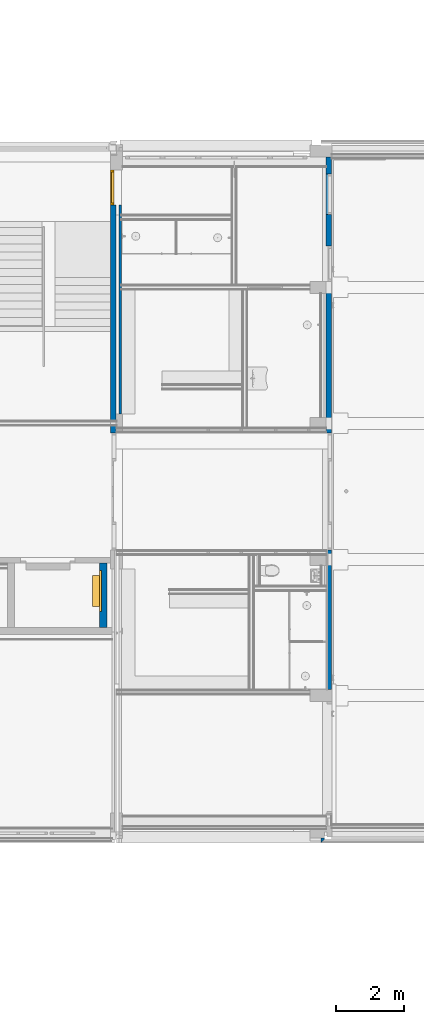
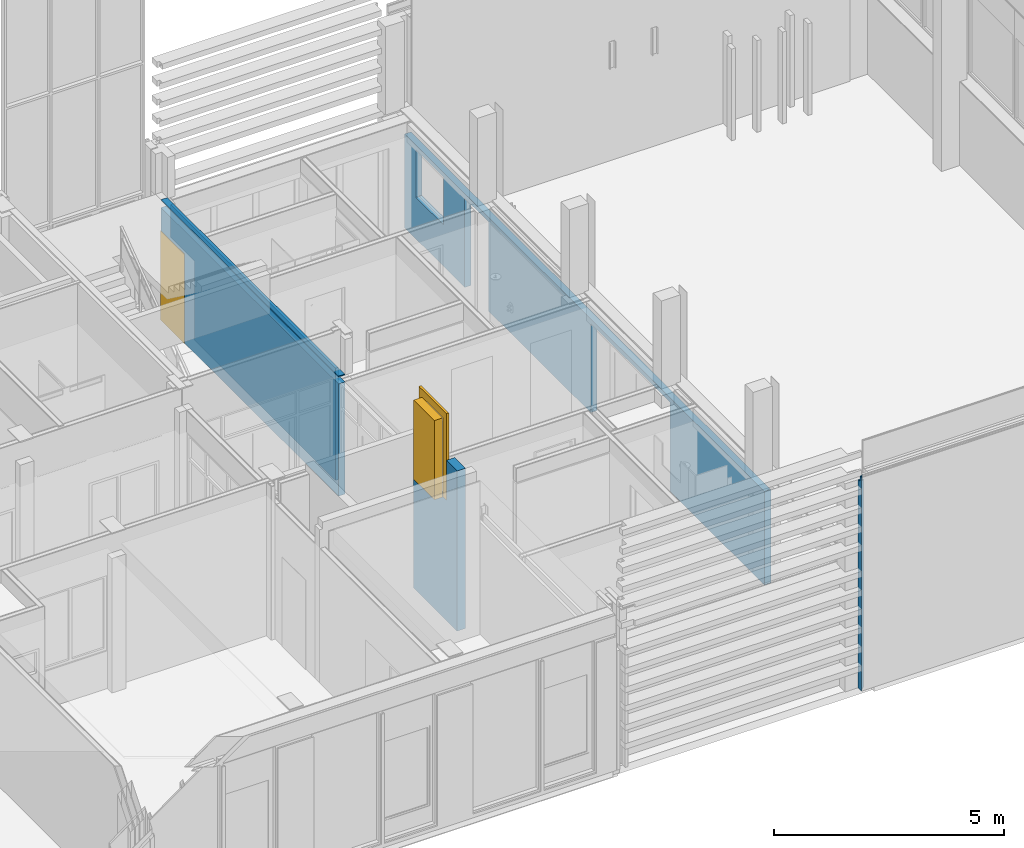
# One storey, part 20 of 109: 5 walls, 3 doors, 8 openings.
"""IFC2X3 building model written with IfcOpenShell, lengths in millimetres."""

from ifc_helpers import new_model, entity, si_unit, converted_unit, derived_unit, money_unit, direction, frame, origin_with_axes, place, context, subcontext, project, spatial, faceted_brep, material, type_object, element, fill, save


model = new_model("IFC2X3")

# Units and contexts
model_context = context("Model", 3, precision=0.01, world=origin_with_axes(), true_north=direction((0.0, 1.0)))
body_context = subcontext(model_context, "Body", "Model", "MODEL_VIEW")
ifc_project = project(units=[si_unit("LENGTHUNIT", "METRE", prefix="MILLI"), si_unit("AREAUNIT", "SQUARE_METRE"), si_unit("VOLUMEUNIT", "CUBIC_METRE"), converted_unit("PLANEANGLEUNIT", "DEGREE", entity("IfcPlaneAngleMeasure", 0.0174532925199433), si_unit("PLANEANGLEUNIT", "RADIAN"), dimensions=[0, 0, 0, 0, 0, 0, 0]), money_unit("EUR"), converted_unit("TIMEUNIT", "Year", entity("IfcTimeMeasure", 31557600.0), si_unit("TIMEUNIT", "SECOND"), dimensions=[0, 0, 1, 0, 0, 0, 0]), si_unit("MASSUNIT", "GRAM", prefix="KILO"), si_unit("THERMODYNAMICTEMPERATUREUNIT", "DEGREE_CELSIUS"), si_unit("LUMINOUSINTENSITYUNIT", "LUMEN"), si_unit("ENERGYUNIT", "JOULE", prefix="MEGA"), derived_unit("THERMALCONDUCTANCEUNIT", [(si_unit("POWERUNIT", "WATT"), 1), (si_unit("LENGTHUNIT", "METRE"), -1), (si_unit("THERMODYNAMICTEMPERATUREUNIT", "KELVIN"), -1)]), derived_unit("SPECIFICHEATCAPACITYUNIT", [(si_unit("ENERGYUNIT", "JOULE"), 1), (si_unit("MASSUNIT", "GRAM", prefix="KILO"), -1), (si_unit("THERMODYNAMICTEMPERATUREUNIT", "KELVIN"), -1)]), derived_unit("MASSDENSITYUNIT", [(si_unit("MASSUNIT", "GRAM", prefix="KILO"), 1), (si_unit("VOLUMEUNIT", "CUBIC_METRE"), -1)])], contexts=[model_context])

# Site, building, storey
site_placement = place(None, origin_with_axes())
site = spatial("IfcSite", under=ifc_project, at=site_placement, Name="<site naam>", CompositionType="ELEMENT")
building_placement = place(site_placement, origin_with_axes())
building = spatial("IfcBuilding", under=site, at=building_placement, Name="<Naam gebouw>", CompositionType="ELEMENT")
storey_placement = place(building_placement, origin_with_axes())
storey = spatial("IfcBuildingStorey", under=building, at=storey_placement, Name="00 Begane grond", CompositionType="ELEMENT", Elevation=0.0)

# Wall, opening, door
ifc_material_1 = material(Name="beton")
wall_type_1 = type_object("IfcWallType", Name="beton 160", PredefinedType="NOTDEFINED")
wall_1_placement = place(storey_placement, frame((51825.00000000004, 19449.99999999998, 0.0), z_axis=(0.0, 0.0, 1.0), x_axis=(0.0, -1.0, 0.0)))
wall_1 = element("IfcWall", 1, at=wall_1_placement, inside=storey, type_object=wall_type_1, material=ifc_material_1, Name="22_Binnenwand_beton", context=body_context, shape_type="Brep", body=[
    faceted_brep([(7719.601271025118, 0.0, 3188.0), (7719.601271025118, 38.87051533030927, 3188.0), (7724.999999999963, 38.87051533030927, 3188.0), (7724.999999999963, 159.9999999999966, 3188.0), (0.0, 160.0000000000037, 3188.0), (0.0, 0.0, 3188.0), (7719.601271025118, 38.87051533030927, 3158.0), (7719.601271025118, 0.0, 3158.0), (7724.999999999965, 38.87051533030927, 3158.0), (7724.999999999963, 159.9999999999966, 3158.0), (0.0, 160.0000000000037, 3158.0), (0.0, 0.0, 3158.0)], [[[0, 1, 2, 3, 4, 5]], [[6, 1, 0, 7]], [[8, 2, 1, 6]], [[3, 2, 8, 9]], [[4, 3, 9, 10]], [[5, 4, 10, 11]], [[11, 7, 0, 5]], [[8, 6, 7, 11, 10, 9]]]),
    faceted_brep([(0.0, 0.0, 0.0), (0.0, 0.0, 2978.0), (0.0, 160.0000000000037, 2978.0), (0.0, 159.9999999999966, 0.0), (7724.999999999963, 0.0, 0.0), (7724.999999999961, 0.0, 2978.0), (7724.999999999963, 159.9999999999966, 2978.0), (7724.999999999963, 159.9999999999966, 0.0)], [[[0, 1, 2, 3]], [[4, 5, 1, 0]], [[5, 6, 2, 1]], [[3, 2, 6, 7]], [[0, 3, 7, 4]], [[7, 6, 5, 4]]]),
])
opening_1_placement = place(wall_1_placement, frame((516.9999866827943, 0.0, 0.0), z_axis=(0.0, 0.0, 1.0), x_axis=(1.0, 0.0, 0.0)))
opening_1 = element("IfcOpeningElement", 2, at=opening_1_placement, cuts=wall_1, Name="22_BI-A-06_305", context=body_context, shape_type="Brep", body=[
    faceted_brep([(516.9999999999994, 160.9999999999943, 2367.0), (516.9999999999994, 160.9999999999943, 0.0), (-516.9999999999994, 160.9999999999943, 0.0), (-516.9999999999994, 160.9999999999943, 2367.0), (516.9999999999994, -0.9999999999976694, 2367.0), (516.9999999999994, -0.9999999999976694, 0.0), (-516.9999999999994, -0.9999999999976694, 0.0), (-516.9999999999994, -0.9999999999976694, 2367.0)], [[[0, 1, 2, 3]], [[4, 5, 1, 0]], [[5, 6, 2, 1]], [[6, 7, 3, 2]], [[7, 4, 0, 3]], [[6, 5, 4, 7]]]),
])
door_style_1 = type_object("IfcDoorStyle", Name="D1 27", ConstructionType="NOTDEFINED", OperationType="SINGLE_SWING_LEFT", ParameterTakesPrecedence=False, Sizeable=False)
door_1_placement = place(opening_1_placement, frame((449.9999999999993, 0.0, 0.0), z_axis=(0.0, 0.0, 1.0), x_axis=(-1.0, 0.0, 0.0)))
door_1 = element("IfcDoor", 3, at=door_1_placement, inside=storey, type_object=door_style_1, Name="22_BI-A-06_305", ObjectType="DOOR", OverallHeight=2367.0, OverallWidth=1034.0, context=body_context, shape_type="Brep", body=[
    faceted_brep([(-16.99999999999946, -30.00000000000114, 0.0), (0.0, -30.00000000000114, 0.0), (0.0, -30.00000000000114, 12.0), (-16.99999999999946, -30.00000000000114, 12.0), (916.9999999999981, -30.00000000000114, 0.0), (899.9999999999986, -30.00000000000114, 0.0), (899.9999999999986, -103.9999999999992, 0.0), (0.0, -103.9999999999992, 0.0), (0.0, -103.9999999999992, 11.99999999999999), (899.9999999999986, -103.9999999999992, 11.99999999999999), (899.9999999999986, -30.00000000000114, 12.0), (916.9999999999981, -30.00000000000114, 12.0)], [[[0, 1, 2, 3]], [[0, 4, 5, 6, 7, 1]], [[1, 7, 8, 2]], [[3, 2, 8, 9, 10, 11]], [[4, 0, 3, 11]], [[5, 4, 11, 10]], [[6, 5, 10, 9]], [[7, 6, 9, 8]]]),
    faceted_brep([(899.9999999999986, -30.00000000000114, 0.0), (899.9999999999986, -103.9999999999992, 0.0), (899.9999999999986, -103.9999999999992, 2300.0), (899.9999999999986, -30.00000000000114, 2300.0), (916.9999999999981, -30.00000000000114, 0.0), (916.9999999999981, 9.99999999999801, 0.0), (966.9999999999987, 9.99999999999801, 0.0), (966.9999999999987, -103.9999999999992, 0.0), (966.9999999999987, -103.9999999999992, 2300.0), (916.9999999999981, -30.00000000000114, 2300.0), (966.9999999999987, 9.99999999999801, 2300.0), (916.9999999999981, 9.99999999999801, 2300.0)], [[[0, 1, 2, 3]], [[4, 5, 6, 7, 1, 0]], [[1, 7, 8, 2]], [[9, 3, 2, 8, 10, 11]], [[9, 4, 0, 3]], [[11, 5, 4, 9]], [[11, 10, 6, 5]], [[6, 10, 8, 7]]]),
    faceted_brep([(-16.99999999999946, -30.00000000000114, 2300.0), (-16.99999999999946, 9.99999999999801, 2300.0), (-67.00000000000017, 9.99999999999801, 2300.0), (-67.00000000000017, -103.9999999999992, 2300.0), (0.0, -103.9999999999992, 2300.0), (0.0, -30.00000000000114, 2300.0), (-16.99999999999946, -30.00000000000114, 0.0), (-16.99999999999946, 9.99999999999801, 0.0), (-67.00000000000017, 9.99999999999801, 0.0), (-67.00000000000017, -103.9999999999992, 0.0), (0.0, -103.9999999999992, 0.0), (0.0, -30.00000000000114, 0.0)], [[[0, 1, 2, 3, 4, 5]], [[0, 6, 7, 1]], [[7, 8, 2, 1]], [[2, 8, 9, 3]], [[3, 9, 10, 4]], [[5, 4, 10, 11]], [[5, 11, 6, 0]], [[6, 11, 10, 9, 8, 7]]]),
    faceted_brep([(916.9999999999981, 9.99999999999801, 2317.0), (-16.99999999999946, 9.99999999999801, 2317.0), (-16.99999999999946, 9.99999999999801, 2300.0), (-67.00000000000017, 9.99999999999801, 2300.0), (-67.00000000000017, 9.99999999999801, 2367.0), (966.9999999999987, 9.99999999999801, 2367.0), (966.9999999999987, 9.99999999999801, 2300.0), (916.9999999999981, 9.99999999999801, 2300.0), (916.9999999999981, -30.00000000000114, 2317.0), (-16.99999999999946, -30.00000000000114, 2317.0), (-16.99999999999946, -30.00000000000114, 2300.0), (0.0, -30.00000000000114, 2300.0), (0.0, -103.9999999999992, 2300.0), (-67.00000000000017, -103.9999999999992, 2300.0), (-67.00000000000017, -103.9999999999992, 2367.0), (966.9999999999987, -103.9999999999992, 2367.0), (966.9999999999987, -103.9999999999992, 2300.0), (916.9999999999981, -30.00000000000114, 2300.0), (899.9999999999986, -103.9999999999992, 2300.0), (899.9999999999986, -30.00000000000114, 2300.0)], [[[0, 1, 2, 3, 4, 5, 6, 7]], [[0, 8, 9, 1]], [[1, 9, 10, 2]], [[10, 11, 12, 13, 3, 2]], [[4, 3, 13, 14]], [[5, 4, 14, 15]], [[6, 5, 15, 16]], [[17, 7, 6, 16, 18, 19]], [[7, 17, 8, 0]], [[10, 9, 8, 17, 19, 11]], [[19, 18, 12, 11]], [[12, 18, 16, 15, 14, 13]]]),
    faceted_brep([(-16.99999999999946, 9.99999999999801, 0.0), (916.9999999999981, 9.99999999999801, 0.0), (916.9999999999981, -30.00000000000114, 0.0), (-16.99999999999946, -30.00000000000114, 0.0), (-16.99999999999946, 9.99999999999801, 2317.0), (916.9999999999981, 9.99999999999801, 2317.0), (916.9999999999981, -30.00000000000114, 2317.0), (-16.99999999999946, -30.00000000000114, 2317.0)], [[[0, 1, 2, 3]], [[0, 4, 5, 1]], [[1, 5, 6, 2]], [[3, 2, 6, 7]], [[4, 0, 3, 7]], [[5, 4, 7, 6]]]),
])
fill(opening_1, door_1)

# Wall, openings
wall_2_placement = place(storey_placement, frame((58317.78284470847, 19824.99999999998, 0.0), z_axis=(0.0, 0.0, 1.0), x_axis=(0.0, -1.0, 0.0)))
wall_2 = element("IfcWall", 4, at=wall_2_placement, inside=storey, type_object=wall_type_1, material=ifc_material_1, Name="22_Binnenwand_beton", context=body_context, shape_type="Brep", body=[
    faceted_brep([(0.0, 0.0, 0.0), (0.0, -159.9999999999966, 0.0), (0.0, -159.9999999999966, 2487.5), (0.0, 0.0, 2487.5), (15649.99999999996, -160.0000000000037, 0.0), (15649.99999999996, 0.0, 0.0), (15649.99999999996, -160.0000000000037, 2487.5), (15649.99999999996, 0.0, 2487.5)], [[[0, 1, 2, 3]], [[4, 1, 0, 5]], [[1, 4, 6, 2]], [[2, 6, 7, 3]], [[5, 0, 3, 7]], [[4, 5, 7, 6]]]),
])
opening_2_placement = place(wall_2_placement, frame((9824.999999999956, 0.0, 3187.5), z_axis=(0.0, 0.0, 1.0), x_axis=(1.0, 0.0, 0.0)))
element("IfcOpeningElement", 5, at=opening_2_placement, cuts=wall_2, Name="22_54-x_305", context=body_context, shape_type="Brep", body=[
    faceted_brep([(-1725.0, -160.9999999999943, 1062.5), (-1725.0, -160.9999999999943, 0.0), (1725.0, -160.9999999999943, 0.0), (1725.0, -160.9999999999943, 1062.5), (-1725.0, 0.9999999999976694, 1062.5), (-1725.0, 0.9999999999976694, 0.0), (1725.0, 0.9999999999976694, 0.0), (1725.0, 0.9999999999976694, 1062.5)], [[[0, 1, 2, 3]], [[4, 5, 1, 0]], [[5, 6, 2, 1]], [[6, 7, 3, 2]], [[7, 4, 0, 3]], [[6, 5, 4, 7]]]),
])
opening_3_placement = place(wall_2_placement, frame((1089.246352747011, 0.0, 1100.0), z_axis=(0.0, 0.0, 1.0), x_axis=(1.0, 0.0, 0.0)))
element("IfcOpeningElement", 6, at=opening_3_placement, cuts=wall_2, Name="22_BI-E-21_305", context=body_context, shape_type="Brep", body=[
    faceted_brep([(-600.0000000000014, -160.9999999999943, 1267.0), (-600.0000000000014, -160.9999999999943, 0.0), (600.0000000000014, -160.9999999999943, 0.0), (600.0000000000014, -160.9999999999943, 1267.0), (-600.0000000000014, 0.9999999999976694, 1267.0), (-600.0000000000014, 0.9999999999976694, 0.0), (600.0000000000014, 0.9999999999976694, 0.0), (600.0000000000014, 0.9999999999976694, 1267.0)], [[[0, 1, 2, 3]], [[4, 5, 1, 0]], [[5, 6, 2, 1]], [[6, 7, 3, 2]], [[7, 4, 0, 3]], [[6, 5, 4, 7]]]),
])
opening_4_placement = place(wall_2_placement, frame((9824.999999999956, 0.0, 0.0), z_axis=(0.0, 0.0, 1.0), x_axis=(1.0, 0.0, 0.0)))
element("IfcOpeningElement", 7, at=opening_4_placement, cuts=wall_2, Name="22_BI-D-05_305", context=body_context, shape_type="Brep", body=[
    faceted_brep([(-1724.999999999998, -160.9999999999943, 2367.0), (-1724.999999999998, -160.9999999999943, 0.0), (1724.999999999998, -160.9999999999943, 0.0), (1724.999999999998, -160.9999999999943, 2367.0), (-1724.999999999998, 0.9999999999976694, 2367.0), (-1724.999999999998, 0.9999999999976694, 0.0), (1724.999999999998, 0.9999999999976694, 0.0), (1724.999999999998, 0.9999999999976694, 2367.0)], [[[0, 1, 2, 3]], [[4, 5, 1, 0]], [[5, 6, 2, 1]], [[6, 7, 3, 2]], [[7, 4, 0, 3]], [[6, 5, 4, 7]]]),
])
opening_5_placement = place(wall_2_placement, frame((3132.999999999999, 0.0, 0.0), z_axis=(0.0, 0.0, 1.0), x_axis=(1.0, 0.0, 0.0)))
element("IfcOpeningElement", 8, at=opening_5_placement, cuts=wall_2, Name="22_BI-A-05_305", context=body_context, shape_type="Brep", body=[
    faceted_brep([(-516.9999999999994, -160.9999999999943, 2367.0), (-516.9999999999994, -160.9999999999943, 0.0), (516.9999999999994, -160.9999999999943, 0.0), (516.9999999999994, -160.9999999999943, 2367.0), (-516.9999999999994, 0.9999999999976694, 2367.0), (-516.9999999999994, 0.9999999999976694, 0.0), (516.9999999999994, 0.9999999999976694, 0.0), (516.9999999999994, 0.9999999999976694, 2367.0)], [[[0, 1, 2, 3]], [[4, 5, 1, 0]], [[5, 6, 2, 1]], [[6, 7, 3, 2]], [[7, 4, 0, 3]], [[6, 5, 4, 7]]]),
])

# Wall
ifc_material_2 = material(Name="metselwerk AFW")
wall_type_2 = type_object("IfcWallType", Name="metselwerk-lucht-kalkzandsteen 335 335", PredefinedType="NOTDEFINED")
wall_3_placement = place(storey_placement, frame((58000.00000000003, 0.0, -30.0), z_axis=(0.0, 0.0, 1.0), x_axis=(0.0, -1.0, 0.0)))
element("IfcWall", 9, at=wall_3_placement, inside=storey, type_object=wall_type_2, material=ifc_material_2, Name="21_Binnenwand_metselwerk-lucht-kalkzandsteen", context=body_context, shape_type="Brep", body=[
    faceted_brep([(175.0000000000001, 110.0000042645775, 0.0), (175.0000000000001, 110.0000042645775, 5524.999999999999), (214.0893166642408, 110.0000052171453, 5524.999999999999), (214.0893166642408, 110.0000052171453, 0.0), (175.0, 0.0, 5524.999999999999), (175.0, 0.0, 0.0), (265.0000000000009, 0.0, 5524.999999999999), (265.0000000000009, 59.08932188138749, 5524.999999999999), (294.9999952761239, 29.0893266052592, 5694.999985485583), (294.9999952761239, 29.0893266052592, 5665.000062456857), (324.08932188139, 0.0, 5665.000062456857), (324.0893218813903, 0.0, 0.0), (265.0000042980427, 59.0893175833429, 5694.999985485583), (294.9999952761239, 0.0, 5665.000062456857), (294.9999952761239, 0.0, 5694.999985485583), (265.0000042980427, 0.0, 5694.999985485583), (265.0000042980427, 0.0, 5665.000062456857)], [[[0, 1, 2, 3]], [[4, 1, 0, 5]], [[1, 4, 6, 7, 2]], [[8, 9, 10, 11, 3, 2, 7, 12]], [[5, 0, 3, 11]], [[4, 5, 11, 10, 13, 14, 15, 16, 6]], [[6, 16, 15, 12, 7]], [[13, 9, 8, 14]], [[13, 10, 9]], [[14, 8, 12, 15]]]),
])

# Wall, openings, doors
ifc_material_3 = material(Name="kalkzandsteen")
wall_type_3 = type_object("IfcWallType", Name="kalkzandsteen 214", PredefinedType="NOTDEFINED")
wall_4_placement = place(storey_placement, frame((51500.00000000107, 6005.000000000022, 0.0), z_axis=(0.0, 0.0, 1.0), x_axis=(0.0, 1.0, 0.0)))
wall_4 = element("IfcWall", 10, at=wall_4_placement, inside=storey, type_object=wall_type_3, material=ifc_material_3, Name="22_Binnenwand_kalkzandsteen", context=body_context, shape_type="Brep", body=[
    faceted_brep([(1670.0, -6.499529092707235e-05, 3188.0), (1669.999999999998, -0.9999999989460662, 3188.0), (1669.999999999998, -0.9999999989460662, 3038.0), (1669.999999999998, -213.9999999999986, 3038.0), (1670.0, -213.9999999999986, 3191.0), (1670.0, -6.499529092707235e-05, 3191.0), (469.9999999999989, -6.499529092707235e-05, 3188.0), (469.9999999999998, -0.9999999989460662, 3188.0), (469.9999999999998, -0.9999999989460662, 3038.0), (469.9999999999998, -213.9999999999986, 3038.0), (0.0, -213.9999999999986, 0.0), (1899.999998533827, -213.9999999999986, 0.0), (1899.999998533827, -213.9999999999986, 4250.0), (0.0, -213.9999999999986, 4250.0), (469.9999999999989, -213.9999999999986, 3191.0), (469.9999999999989, -6.499529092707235e-05, 3191.0), (0.0, 0.0, 4250.0), (1899.999998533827, 0.0, 4250.0), (1899.999998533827, 0.0, 0.0), (0.0, 0.0, 0.0)], [[[0, 1, 2, 3, 4, 5]], [[6, 7, 1, 0]], [[2, 1, 7, 8]], [[8, 9, 3, 2]], [[10, 11, 12, 13], [3, 9, 14, 4]], [[5, 4, 14, 15]], [[16, 17, 18, 19], [15, 6, 0, 5]], [[14, 9, 8, 7, 6, 15]], [[19, 18, 11, 10]], [[12, 11, 18, 17]], [[13, 12, 17, 16]], [[13, 16, 19, 10]]]),
])
opening_6_placement = place(wall_4_placement, frame((1069.999999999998, 0.0, 3188.0), z_axis=(0.0, 0.0, 1.0), x_axis=(1.0, 0.0, 0.0)))
opening_6 = element("IfcOpeningElement", 11, at=opening_6_placement, cuts=wall_4, Name="22__305", context=body_context, shape_type="Brep", body=[
    faceted_brep([(-599.9999999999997, -214.9999999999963, 2300.0), (-599.9999999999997, -214.9999999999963, 0.0), (599.9999999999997, -214.9999999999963, 0.0), (599.9999999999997, -214.9999999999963, 2300.0), (-599.9999999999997, 0.9999999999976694, 2300.0), (-599.9999999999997, 0.9999999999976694, 0.0), (599.9999999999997, 0.9999999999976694, 0.0), (599.9999999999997, 0.9999999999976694, 2300.0)], [[[0, 1, 2, 3]], [[4, 5, 1, 0]], [[5, 6, 2, 1]], [[6, 7, 3, 2]], [[7, 4, 0, 3]], [[6, 5, 4, 7]]]),
])
opening_7_placement = place(wall_4_placement, frame((1069.999999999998, 0.0, 3188.0), z_axis=(0.0, 0.0, 1.0), x_axis=(1.0, 0.0, 0.0)))
opening_7 = element("IfcOpeningElement", 12, at=opening_7_placement, cuts=wall_4, Name="22_liftdeur_305", context=body_context, shape_type="Brep", body=[
    faceted_brep([(-450.0000000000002, -214.9999999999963, 2100.0), (-450.0000000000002, -214.9999999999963, 0.0), (450.0000000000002, -214.9999999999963, 0.0), (450.0000000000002, -214.9999999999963, 2100.0), (-450.0000000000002, 0.9999999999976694, 2100.0), (-450.0000000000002, 0.9999999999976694, 0.0), (450.0000000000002, 0.9999999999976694, 0.0), (450.0000000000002, 0.9999999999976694, 2100.0)], [[[0, 1, 2, 3]], [[4, 5, 1, 0]], [[5, 6, 2, 1]], [[6, 7, 3, 2]], [[7, 4, 0, 3]], [[6, 5, 4, 7]]]),
])
door_style_2 = type_object("IfcDoorStyle", Name="D1 27", ConstructionType="NOTDEFINED", OperationType="NOTDEFINED", ParameterTakesPrecedence=False, Sizeable=False)
door_2_placement = place(opening_6_placement, frame((-450.0000000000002, 0.0, 0.0), z_axis=(0.0, 0.0, 1.0), x_axis=(1.0, 0.0, 0.0)))
door_2 = element("IfcDoor", 13, at=door_2_placement, inside=storey, type_object=door_style_2, Name="22__305", ObjectType="DOOR", OverallHeight=2300.0, OverallWidth=1200.0, context=body_context, shape_type="Brep", body=[
    faceted_brep([(1050.0, 0.0, 0.0), (1050.0, -60.00000000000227, 0.0), (900.0000000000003, -60.00000000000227, 0.0), (900.0000000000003, 0.0, 0.0), (1050.0, 0.0, 2100.0), (1050.0, -60.00000000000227, 2100.0), (900.0000000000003, -60.00000000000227, 2100.0), (900.0000000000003, 0.0, 2100.0)], [[[0, 1, 2, 3]], [[4, 5, 1, 0]], [[1, 5, 6, 2]], [[3, 2, 6, 7]], [[0, 3, 7, 4]], [[7, 6, 5, 4]]]),
    faceted_brep([(-149.9999999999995, 0.0, 0.0), (-149.9999999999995, -60.00000000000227, 0.0), (-149.9999999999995, -60.00000000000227, 2100.0), (-149.9999999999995, 0.0, 2100.0), (0.0, 0.0, 0.0), (0.0, -60.00000000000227, 0.0), (0.0, -60.00000000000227, 2100.0), (0.0, 0.0, 2100.0)], [[[0, 1, 2, 3]], [[4, 5, 1, 0]], [[1, 5, 6, 2]], [[3, 2, 6, 7]], [[0, 3, 7, 4]], [[7, 6, 5, 4]]]),
    faceted_brep([(1050.0, 0.0, 2300.0), (1050.0, -60.00000000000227, 2300.0), (1050.0, -60.00000000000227, 2100.0), (1050.0, 0.0, 2100.0), (-149.9999999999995, 0.0, 2300.0), (-149.9999999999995, -60.00000000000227, 2300.0), (-149.9999999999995, -60.00000000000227, 2100.0), (0.0, -60.00000000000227, 2100.0), (900.0000000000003, -60.00000000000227, 2100.0), (900.0000000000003, 0.0, 2100.0), (0.0, 0.0, 2100.0), (-149.9999999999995, 0.0, 2100.0)], [[[0, 1, 2, 3]], [[4, 5, 1, 0]], [[1, 5, 6, 7, 8, 2]], [[3, 2, 8, 9]], [[0, 3, 9, 10, 11, 4]], [[11, 6, 5, 4]], [[10, 7, 6, 11]], [[9, 8, 7, 10]]]),
])
fill(opening_6, door_2)
door_style_3 = type_object("IfcDoorStyle", Name="DS1 voor wand 27", ConstructionType="NOTDEFINED", OperationType="SLIDING_TO_LEFT", ParameterTakesPrecedence=False, Sizeable=False)
door_3_placement = place(opening_7_placement, frame((-450.0000000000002, 0.0, 0.0), z_axis=(0.0, 0.0, 1.0), x_axis=(1.0, 0.0, 0.0)))
door_3 = element("IfcDoor", 14, at=door_3_placement, inside=storey, type_object=door_style_3, Name="22_liftdeur_305", ObjectType="DOOR", OverallHeight=2100.0, OverallWidth=900.0, context=body_context, shape_type="Brep", body=[
    faceted_brep([(0.0, 215.0000000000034, 0.0), (900.0000000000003, 215.0000000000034, 0.0), (900.0000000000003, 5.000000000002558, 0.0), (0.0, 5.000000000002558, 0.0), (0.0, 215.0000000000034, 2100.0), (900.0000000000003, 215.0000000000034, 2100.0), (900.0000000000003, 5.000000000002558, 2100.0), (0.0, 5.000000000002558, 2100.0)], [[[0, 1, 2, 3]], [[0, 4, 5, 1]], [[1, 5, 6, 2]], [[3, 2, 6, 7]], [[4, 0, 3, 7]], [[5, 4, 7, 6]]]),
])
fill(opening_7, door_3)

# Wall, opening
ifc_material_4 = material(Name="metal_stud")
wall_type_4 = type_object("IfcWallType", Name="metalstud 70 70", PredefinedType="NOTDEFINED")
wall_5_placement = place(storey_placement, frame((52135.00000000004, 12275.00000000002, 0.0), z_axis=(0.0, 0.0, 1.0), x_axis=(0.0, 1.0, 0.0)))
wall_5 = element("IfcWall", 15, at=wall_5_placement, inside=storey, type_object=wall_type_4, material=ifc_material_4, Name="22_Binnenwand_metalstud", context=body_context, shape_type="Brep", body=[
    faceted_brep([(0.0, 0.0, 2978.0), (0.0, 0.0, 0.0), (7174.99999999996, 0.0, 0.0), (7174.99999999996, 0.0, 2978.0), (0.0, 70.00000000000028, 2978.0), (0.0, 70.00000000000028, 0.0), (7174.99999999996, 70.00000000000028, 0.0), (7174.99999999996, 70.00000000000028, 2978.0)], [[[0, 1, 2, 3]], [[0, 4, 5, 1]], [[1, 5, 6, 2]], [[2, 6, 7, 3]], [[4, 0, 3, 7]], [[5, 4, 7, 6]]]),
])
opening_8_placement = place(wall_5_placement, frame((6657.999996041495, 0.0, 0.0), z_axis=(0.0, 0.0, 1.0), x_axis=(1.0, 0.0, 0.0)))
element("IfcOpeningElement", 16, at=opening_8_placement, cuts=wall_5, Name="22__305", context=body_context, shape_type="Brep", body=[
    faceted_brep([(-516.9999827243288, -0.9999999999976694, 2100.0), (-516.9999827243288, -0.9999999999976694, 0.0), (516.9999827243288, -0.9999999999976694, 0.0), (516.9999827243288, -0.9999999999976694, 2100.0), (-516.9999827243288, 70.99999999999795, 2100.0), (-516.9999827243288, 70.99999999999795, 0.0), (516.9999827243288, 70.99999999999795, 0.0), (516.9999827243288, 70.99999999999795, 2100.0)], [[[0, 1, 2, 3]], [[4, 5, 1, 0]], [[5, 6, 2, 1]], [[6, 7, 3, 2]], [[7, 4, 0, 3]], [[6, 5, 4, 7]]]),
])

save(model, "model.ifc")
